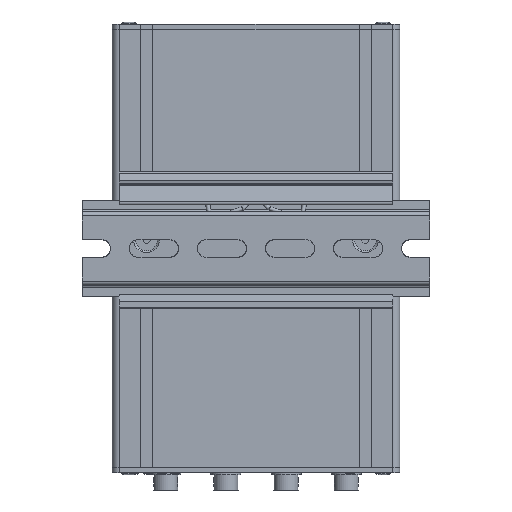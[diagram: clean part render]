
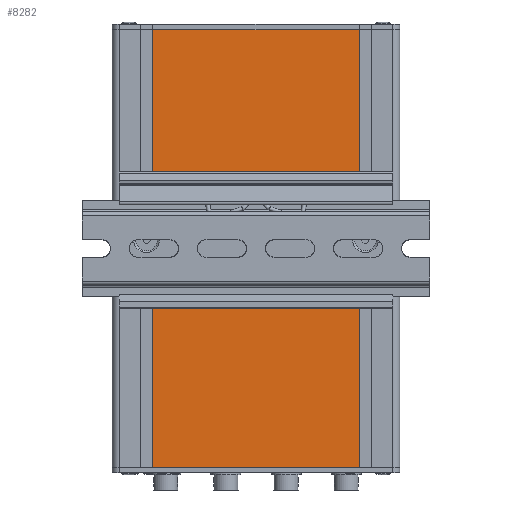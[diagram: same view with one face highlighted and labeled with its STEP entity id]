
A CAD part, front view. The second image highlights one B-rep face of the part: STEP entity #8282.
In plain terms, the highlighted planar face has unit normal (0, -1, 0).
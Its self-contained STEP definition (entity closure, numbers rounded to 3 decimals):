
#843 = DIRECTION ( 'NONE',  ( 0., -1., 0. ) ) ;
#1831 = VERTEX_POINT ( 'NONE', #17370 ) ;
#2014 = EDGE_LOOP ( 'NONE', ( #13844, #16657, #16334, #20756 ) ) ;
#3493 = DIRECTION ( 'NONE',  ( 1., 0., 0. ) ) ;
#4297 = EDGE_CURVE ( 'NONE', #19128, #1831, #6334, .T. ) ;
#4789 = CARTESIAN_POINT ( 'NONE',  ( 28.189, 76.941, 35.92 ) ) ;
#6334 = LINE ( 'NONE', #9157, #23050 ) ;
#6477 = DIRECTION ( 'NONE',  ( 0., 0., -1. ) ) ;
#8282 = ADVANCED_FACE ( 'NONE', ( #32120 ), #32301, .T. ) ;
#8963 = EDGE_CURVE ( 'NONE', #30655, #1831, #19478, .T. ) ;
#9157 = CARTESIAN_POINT ( 'NONE',  ( 103.689, 76.941, 195.92 ) ) ;
#10884 = CARTESIAN_POINT ( 'NONE',  ( 28.189, 76.941, 35.92 ) ) ;
#11171 = EDGE_CURVE ( 'NONE', #30655, #15522, #26341, .T. ) ;
#12513 = CARTESIAN_POINT ( 'NONE',  ( 103.689, 76.941, 195.92 ) ) ;
#13844 = ORIENTED_EDGE ( 'NONE', *, *, #4297, .T. ) ;
#14695 = VECTOR ( 'NONE', #3493, 1000. ) ;
#15091 = CARTESIAN_POINT ( 'NONE',  ( 103.689, 76.941, 35.92 ) ) ;
#15522 = VERTEX_POINT ( 'NONE', #15091 ) ;
#16334 = ORIENTED_EDGE ( 'NONE', *, *, #11171, .T. ) ;
#16657 = ORIENTED_EDGE ( 'NONE', *, *, #8963, .F. ) ;
#17370 = CARTESIAN_POINT ( 'NONE',  ( 28.189, 76.941, 195.92 ) ) ;
#19128 = VERTEX_POINT ( 'NONE', #12513 ) ;
#19478 = LINE ( 'NONE', #10884, #21349 ) ;
#20756 = ORIENTED_EDGE ( 'NONE', *, *, #31861, .T. ) ;
#21349 = VECTOR ( 'NONE', #36888, 1000. ) ;
#23050 = VECTOR ( 'NONE', #29743, 1000. ) ;
#23948 = DIRECTION ( 'NONE',  ( 0., 0., 1. ) ) ;
#24975 = VECTOR ( 'NONE', #23948, 1000. ) ;
#26341 = LINE ( 'NONE', #29148, #14695 ) ;
#29148 = CARTESIAN_POINT ( 'NONE',  ( 28.189, 76.941, 35.92 ) ) ;
#29495 = CARTESIAN_POINT ( 'NONE',  ( 103.689, 76.941, 35.92 ) ) ;
#29743 = DIRECTION ( 'NONE',  ( -1., 0., 0. ) ) ;
#30655 = VERTEX_POINT ( 'NONE', #4789 ) ;
#30849 = AXIS2_PLACEMENT_3D ( 'NONE', #29495, #843, #6477 ) ;
#31861 = EDGE_CURVE ( 'NONE', #15522, #19128, #32372, .T. ) ;
#32120 = FACE_OUTER_BOUND ( 'NONE', #2014, .T. ) ;
#32301 = PLANE ( 'NONE',  #30849 ) ;
#32372 = LINE ( 'NONE', #32923, #24975 ) ;
#32923 = CARTESIAN_POINT ( 'NONE',  ( 103.689, 76.941, 35.92 ) ) ;
#36888 = DIRECTION ( 'NONE',  ( 0., 0., 1. ) ) ;
